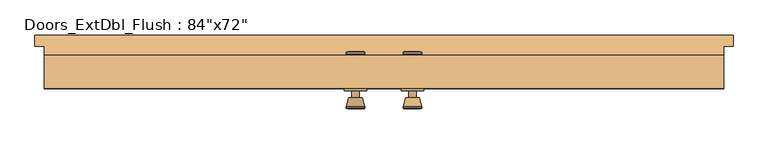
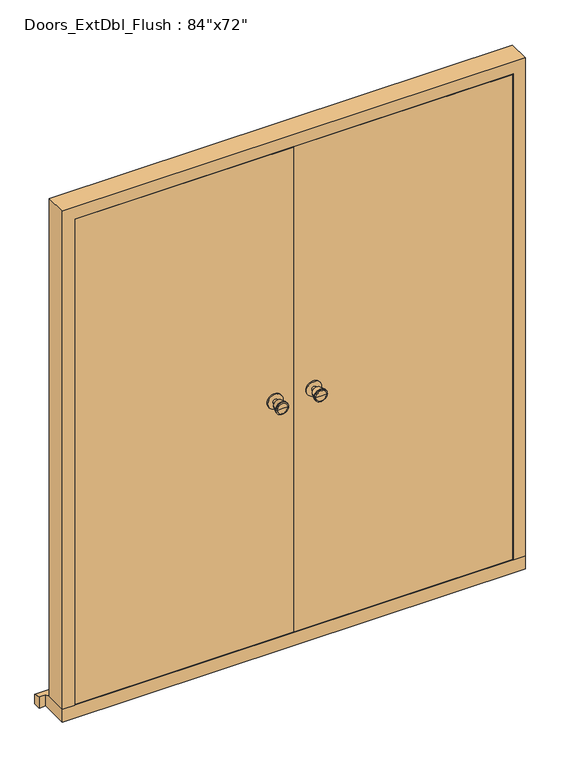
"""IFC4 building model written with IfcOpenShell, lengths in millimetres: door geometry."""

from ifc_helpers import new_model, si_unit, point, frame, frame_2d, origin, place, context, project, spatial, polyline, circle_curve, trimmed, segment, composite_curve, outline, extrude, faceted_brep, source, transform, mapped, element, save
from ifc_brep_helpers import plane_surface, cylinder_surface, revolved_surface, advanced_brep


def door_300f15f9(model_context):
    return source(origin(), model_context, "Body", "SolidModel", [
        advanced_brep(
        [(-76.5, 32.4, 1050.0), (-66.5, 32.4, 1050.0), (-86.5, 32.4, 1050.0), (-96.9758676, -16.6, 1050.0), (-56.0241324, -16.6, 1050.0), (-76.5, -16.6, 1050.0), (-101.5, -14.7721319, 1050.0), (-51.5, -14.7721319, 1050.0), (-101.5, -11.3084537, 1050.0), (-51.5, -11.3084537, 1050.0), (-95.136236, 13.4, 1050.0), (-57.863764, 13.4, 1050.0), (-86.5, 13.4, 1050.0), (-66.5, 13.4, 1050.0)],
        [
            (0, 1),
            (1, 2, circle_curve(frame((-76.5, 32.4, 1050.0), z_axis=(0.0, 1.0, 0.0), x_axis=(1.0, 0.0, 0.0)), 10.0)),
            (2, 0),
            (2, 1, circle_curve(frame((-76.5, 32.4, 1050.0), z_axis=(0.0, 1.0, 0.0), x_axis=(1.0, 0.0, 0.0)), 10.0)),
            (3, 4, circle_curve(frame((-76.5, -16.6, 1050.0), z_axis=(0.0, -1.0, 0.0), x_axis=(1.0, 0.0, 0.0)), 20.4758676)),
            (4, 5),
            (5, 3),
            (4, 3, circle_curve(frame((-76.5, -16.6, 1050.0), z_axis=(0.0, -1.0, 0.0), x_axis=(1.0, 0.0, 0.0)), 20.4758676)),
            (6, 7, circle_curve(frame((-76.5, -14.7721319, 1050.0), z_axis=(0.0, -1.0, 0.0), x_axis=(1.0, 0.0, 0.0)), 25.0)),
            (7, 4),
            (3, 6),
            (7, 6, circle_curve(frame((-76.5, -14.7721319, 1050.0), z_axis=(0.0, -1.0, 0.0), x_axis=(1.0, 0.0, 0.0)), 25.0)),
            (8, 9, circle_curve(frame((-76.5, -11.3084537, 1050.0), z_axis=(0.0, -1.0, 0.0), x_axis=(1.0, 0.0, 0.0)), 25.0)),
            (9, 7),
            (6, 8),
            (9, 8, circle_curve(frame((-76.5, -11.3084537, 1050.0), z_axis=(0.0, -1.0, 0.0), x_axis=(1.0, 0.0, 0.0)), 25.0)),
            (10, 11, circle_curve(frame((-76.5, 13.4, 1050.0), z_axis=(0.0, -1.0, 0.0), x_axis=(1.0, 0.0, 0.0)), 18.636236)),
            (11, 9),
            (8, 10),
            (11, 10, circle_curve(frame((-76.5, 13.4, 1050.0), z_axis=(0.0, -1.0, 0.0), x_axis=(1.0, 0.0, 0.0)), 18.636236)),
            (12, 13, circle_curve(frame((-76.5, 13.4, 1050.0), z_axis=(0.0, -1.0, 0.0), x_axis=(1.0, 0.0, 0.0)), 10.0)),
            (13, 11),
            (10, 12),
            (13, 12, circle_curve(frame((-76.5, 13.4, 1050.0), z_axis=(0.0, -1.0, 0.0), x_axis=(1.0, 0.0, 0.0)), 10.0)),
            (1, 13),
            (12, 2),
        ],
        [
            plane_surface(frame((-76.5, 32.4, 1050.0), z_axis=(0.0, 1.0, 0.0), x_axis=(1.0, 0.0, 0.0))),
            plane_surface(frame((-76.5, -16.6, 1050.0), z_axis=(0.0, -1.0, 0.0), x_axis=(1.0, 0.0, 0.0))),
            revolved_surface(polyline([(-56.0241324, -16.6, 1050.0), (-51.5, -14.7721319, 1050.0)]), (-76.5, 32.4, 1050.0), (0.0, 1.0, 0.0)),
            cylinder_surface(frame((-76.5, 32.4, 1050.0), z_axis=(0.0, 1.0, 0.0), x_axis=(1.0, 0.0, 0.0)), 25.0),
            revolved_surface(polyline([(-51.5, -11.3084537, 1050.0), (-57.863764, 13.4, 1050.0)]), (-76.5, 32.4, 1050.0), (0.0, 1.0, 0.0)),
            plane_surface(frame((-76.5, 13.4, 1050.0), z_axis=(0.0, 1.0, 0.0), x_axis=(1.0, 0.0, 0.0))),
            cylinder_surface(frame((-76.5, 32.4, 1050.0), z_axis=(0.0, 1.0, 0.0), x_axis=(1.0, 0.0, 0.0)), 10.0),
        ],
        [
            (0, [[1, 2, 3]]),
            (0, [[-3, 4, -1]]),
            (1, [[5, 6, 7]]),
            (1, [[8, -7, -6]]),
            (2, [[9, 10, -5, 11]]),
            (2, [[12, -11, -8, -10]]),
            (3, [[13, 14, -9, 15]]),
            (3, [[16, -15, -12, -14]]),
            (4, [[17, 18, -13, 19]]),
            (4, [[20, -19, -16, -18]]),
            (5, [[21, 22, -17, 23]]),
            (5, [[24, -23, -20, -22]]),
            (6, [[-2, 25, -21, 26]]),
            (6, [[-4, -26, -24, -25]]),
        ],
    ),
        extrude(outline(composite_curve([segment(trimmed(circle_curve(frame_2d((1050.0, -76.5)), 30.0), [point((1050.0, -46.5))], [point((1050.0, -106.5))], False, "CARTESIAN"), True, "CONTINUOUS"), segment(trimmed(circle_curve(frame_2d((1050.0, -76.5)), 30.0), [point((1050.0, -106.5))], [point((1050.0, -46.5))], False, "CARTESIAN"), True, "CONTINUOUS")], self_intersect=False)), frame((0.0, 32.4, 0.0), z_axis=(0.0, 1.0, 0.0), x_axis=(0.0, 0.0, 1.0)), (0.0, 0.0, 1.0), 6.0),
        advanced_brep(
        [(-76.5, 88.4, 1050.0), (-86.5, 88.4, 1050.0), (-66.5, 88.4, 1050.0), (-96.9758676, 137.4, 1050.0), (-76.5, 137.4, 1050.0), (-56.0241324, 137.4, 1050.0), (-101.5, 135.5721319, 1050.0), (-51.5, 135.5721319, 1050.0), (-101.5, 132.1084537, 1050.0), (-51.5, 132.1084537, 1050.0), (-95.136236, 107.4, 1050.0), (-57.863764, 107.4, 1050.0), (-86.5, 107.4, 1050.0), (-66.5, 107.4, 1050.0)],
        [
            (0, 1),
            (1, 2, circle_curve(frame((-76.5, 88.4, 1050.0), z_axis=(0.0, -1.0, 0.0), x_axis=(1.0, 0.0, 0.0)), 10.0)),
            (2, 0),
            (2, 1, circle_curve(frame((-76.5, 88.4, 1050.0), z_axis=(0.0, -1.0, 0.0), x_axis=(1.0, 0.0, 0.0)), 10.0)),
            (3, 4),
            (4, 5),
            (5, 3, circle_curve(frame((-76.5, 137.4, 1050.0), z_axis=(0.0, 1.0, 0.0), x_axis=(1.0, 0.0, 0.0)), 20.4758676)),
            (3, 5, circle_curve(frame((-76.5, 137.4, 1050.0), z_axis=(0.0, 1.0, 0.0), x_axis=(1.0, 0.0, 0.0)), 20.4758676)),
            (6, 3),
            (5, 7),
            (7, 6, circle_curve(frame((-76.5, 135.5721319, 1050.0), z_axis=(0.0, 1.0, 0.0), x_axis=(1.0, 0.0, 0.0)), 25.0)),
            (6, 7, circle_curve(frame((-76.5, 135.5721319, 1050.0), z_axis=(0.0, 1.0, 0.0), x_axis=(1.0, 0.0, 0.0)), 25.0)),
            (8, 6),
            (7, 9),
            (9, 8, circle_curve(frame((-76.5, 132.1084537, 1050.0), z_axis=(0.0, 1.0, 0.0), x_axis=(1.0, 0.0, 0.0)), 25.0)),
            (8, 9, circle_curve(frame((-76.5, 132.1084537, 1050.0), z_axis=(0.0, 1.0, 0.0), x_axis=(1.0, 0.0, 0.0)), 25.0)),
            (10, 8),
            (9, 11),
            (11, 10, circle_curve(frame((-76.5, 107.4, 1050.0), z_axis=(0.0, 1.0, 0.0), x_axis=(1.0, 0.0, 0.0)), 18.636236)),
            (10, 11, circle_curve(frame((-76.5, 107.4, 1050.0), z_axis=(0.0, 1.0, 0.0), x_axis=(1.0, 0.0, 0.0)), 18.636236)),
            (12, 10),
            (11, 13),
            (13, 12, circle_curve(frame((-76.5, 107.4, 1050.0), z_axis=(0.0, 1.0, 0.0), x_axis=(1.0, 0.0, 0.0)), 10.0)),
            (12, 13, circle_curve(frame((-76.5, 107.4, 1050.0), z_axis=(0.0, 1.0, 0.0), x_axis=(1.0, 0.0, 0.0)), 10.0)),
            (1, 12),
            (13, 2),
        ],
        [
            plane_surface(frame((-76.5, 88.4, 1050.0), z_axis=(0.0, -1.0, 0.0), x_axis=(1.0, 0.0, 0.0))),
            plane_surface(frame((-76.5, 137.4, 1050.0), z_axis=(0.0, 1.0, 0.0), x_axis=(1.0, 0.0, 0.0))),
            revolved_surface(polyline([(-56.0241324, 137.4, 1050.0), (-51.5, 135.5721319, 1050.0)]), (-76.5, 88.4, 1050.0), (0.0, -1.0, 0.0)),
            cylinder_surface(frame((-76.5, 88.4, 1050.0), z_axis=(0.0, -1.0, 0.0), x_axis=(1.0, 0.0, 0.0)), 25.0),
            revolved_surface(polyline([(-51.5, 132.1084537, 1050.0), (-57.863764, 107.4, 1050.0)]), (-76.5, 88.4, 1050.0), (0.0, -1.0, 0.0)),
            plane_surface(frame((-76.5, 107.4, 1050.0), z_axis=(0.0, -1.0, 0.0), x_axis=(1.0, 0.0, 0.0))),
            cylinder_surface(frame((-76.5, 88.4, 1050.0), z_axis=(0.0, -1.0, 0.0), x_axis=(1.0, 0.0, 0.0)), 10.0),
        ],
        [
            (0, [[1, 2, 3]]),
            (0, [[-3, 4, -1]]),
            (1, [[5, 6, 7]]),
            (1, [[-6, -5, 8]]),
            (2, [[9, -7, 10, 11]]),
            (2, [[-10, -8, -9, 12]]),
            (3, [[13, -11, 14, 15]]),
            (3, [[-14, -12, -13, 16]]),
            (4, [[17, -15, 18, 19]]),
            (4, [[-18, -16, -17, 20]]),
            (5, [[21, -19, 22, 23]]),
            (5, [[-22, -20, -21, 24]]),
            (6, [[25, -23, 26, -2]]),
            (6, [[-26, -24, -25, -4]]),
        ],
    ),
        extrude(outline(composite_curve([segment(trimmed(circle_curve(frame_2d((1050.0, -76.5)), 30.0), [point((1050.0, -46.5))], [point((1050.0, -106.5))], False, "CARTESIAN"), True, "CONTINUOUS"), segment(trimmed(circle_curve(frame_2d((1050.0, -76.5)), 30.0), [point((1050.0, -106.5))], [point((1050.0, -46.5))], False, "CARTESIAN"), True, "CONTINUOUS")], self_intersect=False)), frame((0.0, 82.4, 0.0), z_axis=(0.0, 1.0, 0.0), x_axis=(0.0, 0.0, 1.0)), (0.0, 0.0, 1.0), 6.0),
        advanced_brep(
        [(76.5, 32.4, 1050.0), (86.5, 32.4, 1050.0), (66.5, 32.4, 1050.0), (96.9758676, -16.6, 1050.0), (76.5, -16.6, 1050.0), (56.0241324, -16.6, 1050.0), (101.5, -14.7721319, 1050.0), (51.5, -14.7721319, 1050.0), (101.5, -11.3084537, 1050.0), (51.5, -11.3084537, 1050.0), (95.136236, 13.4, 1050.0), (57.863764, 13.4, 1050.0), (86.5, 13.4, 1050.0), (66.5, 13.4, 1050.0)],
        [
            (0, 1),
            (1, 2, circle_curve(frame((76.5, 32.4, 1050.0), z_axis=(0.0, 1.0, 0.0), x_axis=(-1.0, 0.0, 0.0)), 10.0)),
            (2, 0),
            (2, 1, circle_curve(frame((76.5, 32.4, 1050.0), z_axis=(0.0, 1.0, 0.0), x_axis=(-1.0, 0.0, 0.0)), 10.0)),
            (3, 4),
            (4, 5),
            (5, 3, circle_curve(frame((76.5, -16.6, 1050.0), z_axis=(0.0, -1.0, 0.0), x_axis=(-1.0, 0.0, 0.0)), 20.4758676)),
            (3, 5, circle_curve(frame((76.5, -16.6, 1050.0), z_axis=(0.0, -1.0, 0.0), x_axis=(-1.0, 0.0, 0.0)), 20.4758676)),
            (6, 3),
            (5, 7),
            (7, 6, circle_curve(frame((76.5, -14.7721319, 1050.0), z_axis=(0.0, -1.0, 0.0), x_axis=(-1.0, 0.0, 0.0)), 25.0)),
            (6, 7, circle_curve(frame((76.5, -14.7721319, 1050.0), z_axis=(0.0, -1.0, 0.0), x_axis=(-1.0, 0.0, 0.0)), 25.0)),
            (8, 6),
            (7, 9),
            (9, 8, circle_curve(frame((76.5, -11.3084537, 1050.0), z_axis=(0.0, -1.0, 0.0), x_axis=(-1.0, 0.0, 0.0)), 25.0)),
            (8, 9, circle_curve(frame((76.5, -11.3084537, 1050.0), z_axis=(0.0, -1.0, 0.0), x_axis=(-1.0, 0.0, 0.0)), 25.0)),
            (10, 8),
            (9, 11),
            (11, 10, circle_curve(frame((76.5, 13.4, 1050.0), z_axis=(0.0, -1.0, 0.0), x_axis=(-1.0, 0.0, 0.0)), 18.636236)),
            (10, 11, circle_curve(frame((76.5, 13.4, 1050.0), z_axis=(0.0, -1.0, 0.0), x_axis=(-1.0, 0.0, 0.0)), 18.636236)),
            (12, 10),
            (11, 13),
            (13, 12, circle_curve(frame((76.5, 13.4, 1050.0), z_axis=(0.0, -1.0, 0.0), x_axis=(-1.0, 0.0, 0.0)), 10.0)),
            (12, 13, circle_curve(frame((76.5, 13.4, 1050.0), z_axis=(0.0, -1.0, 0.0), x_axis=(-1.0, 0.0, 0.0)), 10.0)),
            (1, 12),
            (13, 2),
        ],
        [
            plane_surface(frame((76.5, 32.4, 1050.0), z_axis=(0.0, 1.0, 0.0), x_axis=(-1.0, 0.0, 0.0))),
            plane_surface(frame((76.5, -16.6, 1050.0), z_axis=(0.0, -1.0, 0.0), x_axis=(-1.0, 0.0, 0.0))),
            revolved_surface(polyline([(56.0241324, -16.6, 1050.0), (51.5, -14.7721319, 1050.0)]), (76.5, 32.4, 1050.0), (0.0, 1.0, 0.0)),
            cylinder_surface(frame((76.5, 32.4, 1050.0), z_axis=(0.0, 1.0, 0.0), x_axis=(-1.0, 0.0, 0.0)), 25.0),
            revolved_surface(polyline([(51.5, -11.3084537, 1050.0), (57.863764, 13.4, 1050.0)]), (76.5, 32.4, 1050.0), (0.0, 1.0, 0.0)),
            plane_surface(frame((76.5, 13.4, 1050.0), z_axis=(0.0, 1.0, 0.0), x_axis=(-1.0, 0.0, 0.0))),
            cylinder_surface(frame((76.5, 32.4, 1050.0), z_axis=(0.0, 1.0, 0.0), x_axis=(-1.0, 0.0, 0.0)), 10.0),
        ],
        [
            (0, [[1, 2, 3]]),
            (0, [[-3, 4, -1]]),
            (1, [[5, 6, 7]]),
            (1, [[-6, -5, 8]]),
            (2, [[9, -7, 10, 11]]),
            (2, [[-10, -8, -9, 12]]),
            (3, [[13, -11, 14, 15]]),
            (3, [[-14, -12, -13, 16]]),
            (4, [[17, -15, 18, 19]]),
            (4, [[-18, -16, -17, 20]]),
            (5, [[21, -19, 22, 23]]),
            (5, [[-22, -20, -21, 24]]),
            (6, [[25, -23, 26, -2]]),
            (6, [[-26, -24, -25, -4]]),
        ],
    ),
        extrude(outline(composite_curve([segment(trimmed(circle_curve(frame_2d((1050.0, 76.5)), 30.0), [point((1050.0, 46.5))], [point((1050.0, 106.5))], False, "CARTESIAN"), True, "CONTINUOUS"), segment(trimmed(circle_curve(frame_2d((1050.0, 76.5)), 30.0), [point((1050.0, 106.5))], [point((1050.0, 46.5))], False, "CARTESIAN"), True, "CONTINUOUS")], self_intersect=False)), frame((0.0, 32.4, 0.0), z_axis=(0.0, 1.0, 0.0), x_axis=(0.0, 0.0, 1.0)), (0.0, 0.0, 1.0), 6.0),
        advanced_brep(
        [(76.5, 88.4, 1050.0), (66.5, 88.4, 1050.0), (86.5, 88.4, 1050.0), (96.9758676, 137.4, 1050.0), (56.0241324, 137.4, 1050.0), (76.5, 137.4, 1050.0), (101.5, 135.5721319, 1050.0), (51.5, 135.5721319, 1050.0), (101.5, 132.1084537, 1050.0), (51.5, 132.1084537, 1050.0), (95.136236, 107.4, 1050.0), (57.863764, 107.4, 1050.0), (86.5, 107.4, 1050.0), (66.5, 107.4, 1050.0)],
        [
            (0, 1),
            (1, 2, circle_curve(frame((76.5, 88.4, 1050.0), z_axis=(0.0, -1.0, 0.0), x_axis=(-1.0, 0.0, 0.0)), 10.0)),
            (2, 0),
            (2, 1, circle_curve(frame((76.5, 88.4, 1050.0), z_axis=(0.0, -1.0, 0.0), x_axis=(-1.0, 0.0, 0.0)), 10.0)),
            (3, 4, circle_curve(frame((76.5, 137.4, 1050.0), z_axis=(0.0, 1.0, 0.0), x_axis=(-1.0, 0.0, 0.0)), 20.4758676)),
            (4, 5),
            (5, 3),
            (4, 3, circle_curve(frame((76.5, 137.4, 1050.0), z_axis=(0.0, 1.0, 0.0), x_axis=(-1.0, 0.0, 0.0)), 20.4758676)),
            (6, 7, circle_curve(frame((76.5, 135.5721319, 1050.0), z_axis=(0.0, 1.0, 0.0), x_axis=(-1.0, 0.0, 0.0)), 25.0)),
            (7, 4),
            (3, 6),
            (7, 6, circle_curve(frame((76.5, 135.5721319, 1050.0), z_axis=(0.0, 1.0, 0.0), x_axis=(-1.0, 0.0, 0.0)), 25.0)),
            (8, 9, circle_curve(frame((76.5, 132.1084537, 1050.0), z_axis=(0.0, 1.0, 0.0), x_axis=(-1.0, 0.0, 0.0)), 25.0)),
            (9, 7),
            (6, 8),
            (9, 8, circle_curve(frame((76.5, 132.1084537, 1050.0), z_axis=(0.0, 1.0, 0.0), x_axis=(-1.0, 0.0, 0.0)), 25.0)),
            (10, 11, circle_curve(frame((76.5, 107.4, 1050.0), z_axis=(0.0, 1.0, 0.0), x_axis=(-1.0, 0.0, 0.0)), 18.636236)),
            (11, 9),
            (8, 10),
            (11, 10, circle_curve(frame((76.5, 107.4, 1050.0), z_axis=(0.0, 1.0, 0.0), x_axis=(-1.0, 0.0, 0.0)), 18.636236)),
            (12, 13, circle_curve(frame((76.5, 107.4, 1050.0), z_axis=(0.0, 1.0, 0.0), x_axis=(-1.0, 0.0, 0.0)), 10.0)),
            (13, 11),
            (10, 12),
            (13, 12, circle_curve(frame((76.5, 107.4, 1050.0), z_axis=(0.0, 1.0, 0.0), x_axis=(-1.0, 0.0, 0.0)), 10.0)),
            (1, 13),
            (12, 2),
        ],
        [
            plane_surface(frame((76.5, 88.4, 1050.0), z_axis=(0.0, -1.0, 0.0), x_axis=(-1.0, 0.0, 0.0))),
            plane_surface(frame((76.5, 137.4, 1050.0), z_axis=(0.0, 1.0, 0.0), x_axis=(-1.0, 0.0, 0.0))),
            revolved_surface(polyline([(56.0241324, 137.4, 1050.0), (51.5, 135.5721319, 1050.0)]), (76.5, 88.4, 1050.0), (0.0, -1.0, 0.0)),
            cylinder_surface(frame((76.5, 88.4, 1050.0), z_axis=(0.0, -1.0, 0.0), x_axis=(-1.0, 0.0, 0.0)), 25.0),
            revolved_surface(polyline([(51.5, 132.1084537, 1050.0), (57.863764, 107.4, 1050.0)]), (76.5, 88.4, 1050.0), (0.0, -1.0, 0.0)),
            plane_surface(frame((76.5, 107.4, 1050.0), z_axis=(0.0, -1.0, 0.0), x_axis=(-1.0, 0.0, 0.0))),
            cylinder_surface(frame((76.5, 88.4, 1050.0), z_axis=(0.0, -1.0, 0.0), x_axis=(-1.0, 0.0, 0.0)), 10.0),
        ],
        [
            (0, [[1, 2, 3]]),
            (0, [[-3, 4, -1]]),
            (1, [[5, 6, 7]]),
            (1, [[8, -7, -6]]),
            (2, [[9, 10, -5, 11]]),
            (2, [[12, -11, -8, -10]]),
            (3, [[13, 14, -9, 15]]),
            (3, [[16, -15, -12, -14]]),
            (4, [[17, 18, -13, 19]]),
            (4, [[20, -19, -16, -18]]),
            (5, [[21, 22, -17, 23]]),
            (5, [[24, -23, -20, -22]]),
            (6, [[-2, 25, -21, 26]]),
            (6, [[-4, -26, -24, -25]]),
        ],
    ),
        extrude(outline(composite_curve([segment(trimmed(circle_curve(frame_2d((1050.0, 76.5)), 30.0), [point((1050.0, 46.5))], [point((1050.0, 106.5))], False, "CARTESIAN"), True, "CONTINUOUS"), segment(trimmed(circle_curve(frame_2d((1050.0, 76.5)), 30.0), [point((1050.0, 106.5))], [point((1050.0, 46.5))], False, "CARTESIAN"), True, "CONTINUOUS")], self_intersect=False)), frame((0.0, 82.4, 0.0), z_axis=(0.0, 1.0, 0.0), x_axis=(0.0, 0.0, 1.0)), (0.0, 0.0, 1.0), 6.0),
        faceted_brep([(843.9, 127.4, 54.5), (914.4, 127.4, 54.5), (914.4, 38.4, 54.5), (865.9, 38.4, 54.5), (865.9, 85.4, 54.5), (843.9, 85.4, 54.5), (843.9, 127.4, 2063.1), (-843.9, 127.4, 2063.1), (-843.9, 127.4, 54.5), (-914.4, 127.4, 54.5), (-914.4, 127.4, 2133.6), (914.4, 127.4, 2133.6), (914.4, 38.4, 2133.6), (-914.4, 38.4, 2133.6), (-914.4, 38.4, 54.5), (-865.9, 38.4, 54.5), (-865.9, 38.4, 2085.1), (865.9, 38.4, 2085.1), (865.9, 85.4, 2085.1), (-865.9, 85.4, 2085.1), (-865.9, 85.4, 54.5), (-843.9, 85.4, 54.5), (-843.9, 85.4, 2063.1), (843.9, 85.4, 2063.1)], [[[0, 1, 2, 3, 4, 5]], [[1, 0, 6, 7, 8, 9, 10, 11]], [[2, 1, 11, 12]], [[3, 2, 12, 13, 14, 15, 16, 17]], [[4, 3, 17, 18]], [[5, 4, 18, 19, 20, 21, 22, 23]], [[0, 5, 23, 6]], [[12, 11, 10, 13]], [[18, 17, 16, 19]], [[6, 23, 22, 7]], [[8, 21, 20, 15, 14, 9]], [[13, 10, 9, 14]], [[19, 16, 15, 20]], [[7, 22, 21, 8]]]),
        faceted_brep([(939.4, 182.4, 0.0), (939.4, 182.4, 38.5947221), (939.4, 152.4, 47.2703282), (939.4, 152.4, 0.0), (-939.4, 182.4, 38.5947221), (-939.4, 182.4, 0.0), (-939.4, 152.4, 0.0), (-939.4, 152.4, 47.2703282), (914.4, 152.4, 0.0), (914.4, 38.4, 0.0), (-914.4, 38.4, 0.0), (-914.4, 152.4, 0.0), (-914.4, 152.4, 47.2703282), (-914.4, 127.4, 54.5), (914.4, 127.4, 54.5), (914.4, 152.4, 47.2703282), (-914.4, 38.4, 54.5), (914.4, 38.4, 54.5)], [[[0, 1, 2, 3]], [[4, 5, 6, 7]], [[5, 0, 3, 8, 9, 10, 11, 6]], [[1, 0, 5, 4]], [[1, 4, 7, 12, 13, 14, 15, 2]], [[13, 16, 17, 14]], [[16, 10, 9, 17]], [[12, 11, 10, 16, 13]], [[11, 12, 7, 6]], [[8, 15, 14, 17, 9]], [[15, 8, 3, 2]]]),
        extrude(outline(polyline([(862.9, 38.4), (1.5, 38.4), (1.5, 82.4), (862.9, 82.4), (862.9, 38.4)])), frame((0.0, 0.0, 58.5), z_axis=(0.0, 0.0, 1.0), x_axis=(1.0, 0.0, 0.0)), (0.0, 0.0, 1.0), 2023.6),
        extrude(outline(polyline([(-1.5, 38.4), (-862.9, 38.4), (-862.9, 82.4), (-1.5, 82.4), (-1.5, 38.4)])), frame((0.0, 0.0, 58.5), z_axis=(0.0, 0.0, 1.0), x_axis=(1.0, 0.0, 0.0)), (0.0, 0.0, 1.0), 2023.6),
    ])


if __name__ == "__main__":
    model = new_model("IFC4")
    model_context = context("Model", 3, world=origin())
    ifc_project = project(units=[si_unit("LENGTHUNIT", "METRE", prefix="MILLI")], contexts=[model_context])
    site = spatial("IfcSite", under=ifc_project)
    building = spatial("IfcBuilding", under=site)
    placement = place(None, origin())
    door_shape = door_300f15f9(model_context)
    element("IfcDoor", 1, ObjectType="Doors_ExtDbl_Flush : 84\"x72\"", at=placement, inside=building, context=model_context, shape_type="MappedRepresentation", body=[
        mapped(door_shape, transform((0.0, 0.0, 0.0), x_axis=(1.0, 0.0, 0.0), y_axis=(0.0, 1.0, 0.0), z_axis=(0.0, 0.0, 1.0))),
    ])
    save(model, "model.ifc")
